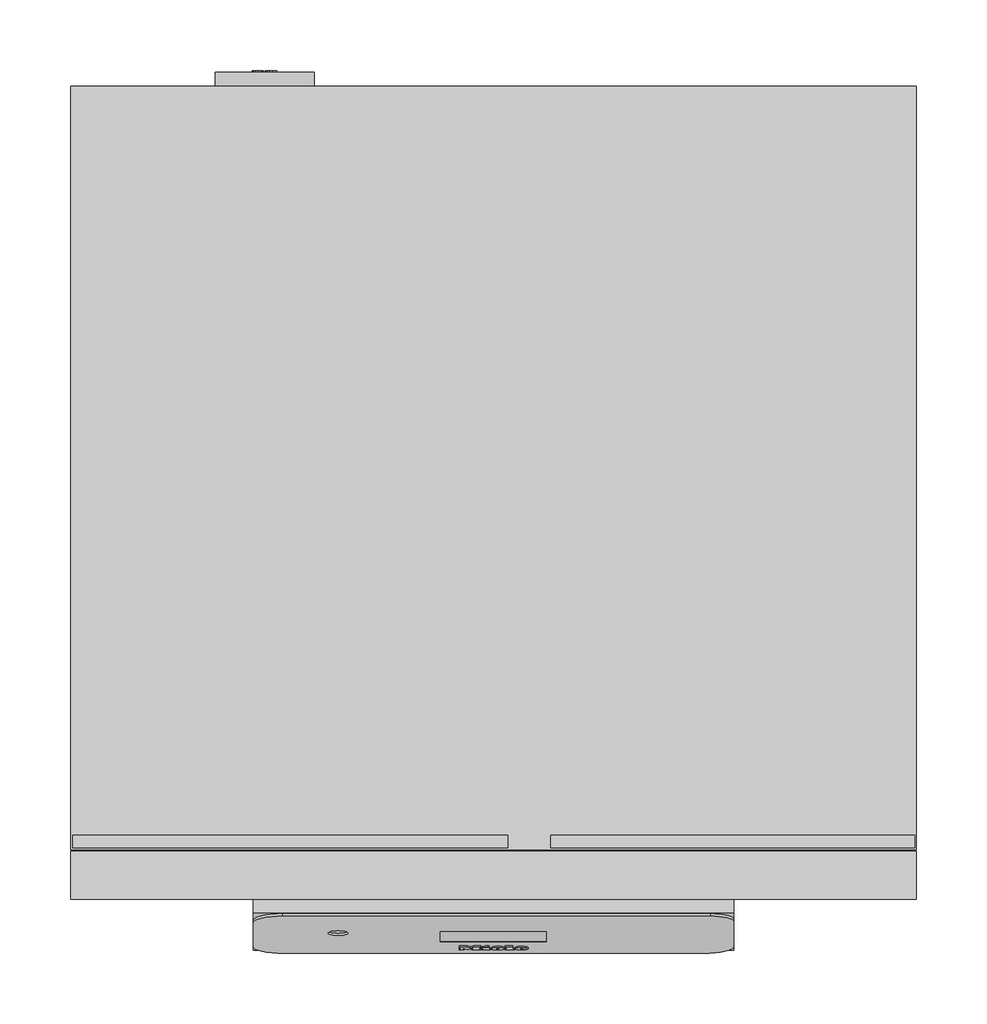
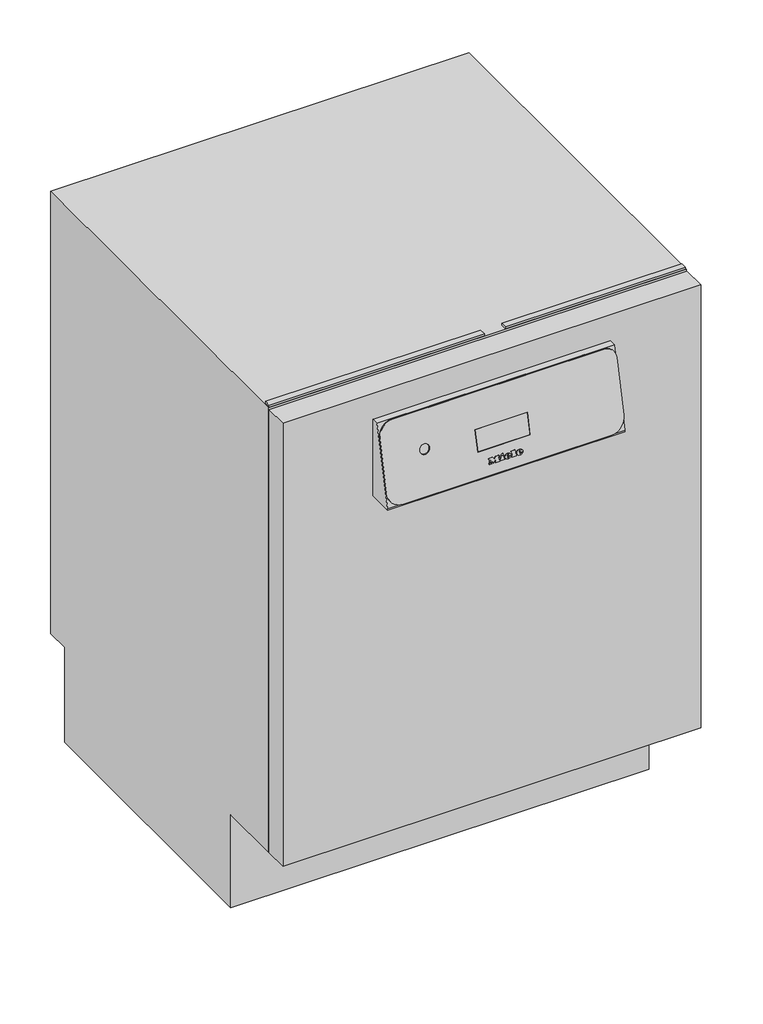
# Not in any storey: 1 proxy.
"""IFC4 building model written with IfcOpenShell, lengths in millimetres."""

from ifc_helpers import new_model, si_unit, origin, place, context, project, spatial, transform, mapped, element, save
from components import specialty_equipment_e0cb4e43

model = new_model("IFC4")

# Units and contexts
model_context = context("Model", 3, world=origin())
ifc_project = project(units=[si_unit("LENGTHUNIT", "METRE", prefix="MILLI")], contexts=[model_context])

# Site, building
site = spatial("IfcSite", under=ifc_project)
building = spatial("IfcBuilding", under=site)

# Proxy
placement = place(None, origin())
specialty_equipment_shape = specialty_equipment_e0cb4e43(model_context)
element("IfcBuildingElementProxy", 1, Name="12066590_NAM_PFD401U_SST : 61040135_NAM_12066590_PFD401U_SST", ObjectType="12066590_NAM_PFD401U_SST : 61040135_NAM_12066590_PFD401U_SST", at=placement, inside=building, context=model_context, shape_type="MappedRepresentation", body=[
    mapped(specialty_equipment_shape, transform((0.0, 0.0, 0.0), x_axis=(1.0, 0.0, 0.0), y_axis=(0.0, 1.0, 0.0), z_axis=(0.0, 0.0, 1.0))),
])

save(model, "model.ifc")
